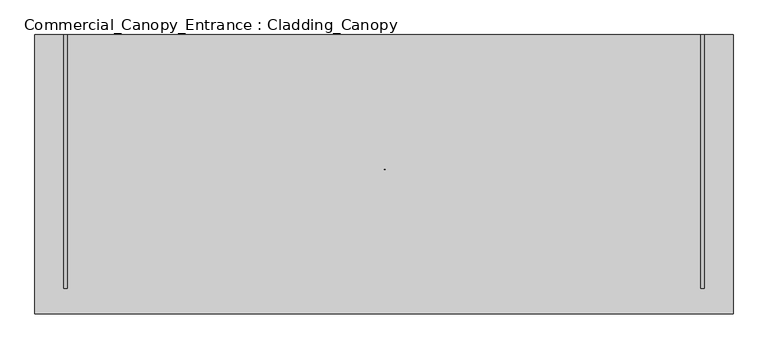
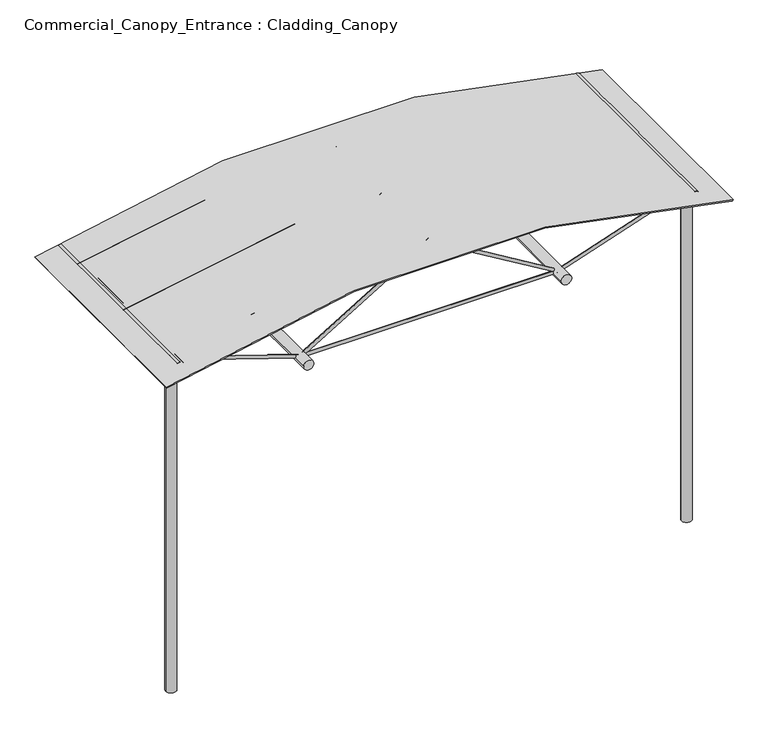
"""IFC4 building model written with IfcOpenShell, lengths in millimetres: proxy geometry, Commercial_Canopy_Entrance : Cladding_Canopy."""

from ifc_helpers import new_model, si_unit, point, frame, frame_2d, origin, place, context, project, spatial, polyline, circle_curve, ellipse_curve, trimmed, segment, composite_curve, outline, extrude, source, transform, mapped, element, save
from ifc_brep_helpers import plane_surface, cylinder_surface, revolved_surface, advanced_brep


def commercial_canopy_entrance_cladding_canopy_659b45ad(model_context):
    return source(origin(), model_context, "Body", "SolidModel", [
        extrude(outline(composite_curve([segment(trimmed(circle_curve(frame_2d((-1850.0, 2983.3333333)), 15.0), [point((-1850.0, 2968.3333333))], [point((-1850.0, 2998.3333333))], False, "CARTESIAN"), True, "CONTINUOUS"), segment(trimmed(circle_curve(frame_2d((-1850.0, 2983.3333333)), 15.0), [point((-1850.0, 2998.3333333))], [point((-1850.0, 2968.3333333))], False, "CARTESIAN"), True, "CONTINUOUS")], self_intersect=False)), frame((-1459.7114967, 0.0, 0.0), z_axis=(1.0, 0.0, 0.0), x_axis=(0.0, 1.0, 0.0)), (0.0, 0.0, 1.0), 2500.0),
        advanced_brep(
        [(-2714.4549132, -1850.0, 3385.7697505), (-2704.9680802, -1850.0, 3414.2302495), (-1457.8938734, -1850.0, 2966.9160706), (-1461.5291199, -1850.0, 2999.7505961), (-209.7114967, -1850.0, 3718.9885032), (-209.7114967, -1850.0, 3754.0133886), (1038.4708801, -1850.0, 2966.9160706), (1042.1061266, -1850.0, 2999.7505961), (2295.0319198, -1850.0, 3385.7697505), (2285.5450868, -1850.0, 3414.2302495)],
        [
            (0, 1, circle_curve(frame((-2709.7114967, -1850.0, 3400.0), z_axis=(-0.9486832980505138, 0.0, 0.31622776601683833), x_axis=(0.31622776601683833, 0.0, 0.9486832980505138)), 15.0)),
            (1, 0, circle_curve(frame((-2709.7114967, -1850.0, 3400.0), z_axis=(-0.9486832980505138, 0.0, 0.31622776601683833), x_axis=(0.31622776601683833, 0.0, 0.9486832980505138)), 15.0)),
            (0, 2),
            (2, 3, ellipse_curve(frame((-1459.7114967, -1850.0, 2983.3333333), z_axis=(-0.9939269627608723, 0.0, -0.11004177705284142), x_axis=(-0.11004177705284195, 0.0, 0.9939269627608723)), 16.5175746, 15.0)),
            (3, 1),
            (3, 2, ellipse_curve(frame((-1459.7114967, -1850.0, 2983.3333333), z_axis=(-0.9939269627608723, 0.0, -0.11004177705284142), x_axis=(-0.11004177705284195, 0.0, 0.9939269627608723)), 16.5175746, 15.0)),
            (2, 4),
            (4, 5, ellipse_curve(frame((-209.7114967, -1850.0, 3736.5009459), z_axis=(-1.0, 0.0, 0.0), x_axis=(0.0, 0.0, -1.0)), 17.5124427, 15.0)),
            (5, 3),
            (5, 4, ellipse_curve(frame((-209.7114967, -1850.0, 3736.5009459), z_axis=(-1.0, 0.0, 0.0), x_axis=(0.0, 0.0, -1.0)), 17.5124427, 15.0)),
            (4, 6),
            (6, 7, ellipse_curve(frame((1040.2885033, -1850.0, 2983.3333333), z_axis=(-0.9939269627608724, 0.0, 0.11004177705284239), x_axis=(0.1100417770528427, 0.0, 0.9939269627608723)), 16.5175746, 15.0)),
            (7, 5),
            (7, 6, ellipse_curve(frame((1040.2885033, -1850.0, 2983.3333333), z_axis=(-0.9939269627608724, 0.0, 0.11004177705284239), x_axis=(0.1100417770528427, 0.0, 0.9939269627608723)), 16.5175746, 15.0)),
            (8, 9, circle_curve(frame((2290.2885033, -1850.0, 3400.0), z_axis=(0.948683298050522, 0.0, 0.3162277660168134), x_axis=(-0.3162277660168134, 0.0, 0.948683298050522)), 15.0)),
            (9, 8, circle_curve(frame((2290.2885033, -1850.0, 3400.0), z_axis=(0.948683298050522, 0.0, 0.3162277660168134), x_axis=(-0.3162277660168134, 0.0, 0.948683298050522)), 15.0)),
            (6, 8),
            (9, 7),
        ],
        [
            plane_surface(frame((-2709.7114967, -1850.0, 3400.0), z_axis=(-0.9486832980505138, 0.0, 0.31622776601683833), x_axis=(0.0, -1.0, 0.0))),
            cylinder_surface(frame((-2709.7114967, -1850.0, 3400.0), z_axis=(-0.9486832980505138, 0.0, 0.31622776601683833), x_axis=(0.31622776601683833, 0.0, 0.9486832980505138)), 15.0),
            cylinder_surface(frame((-1459.7114967, -1850.0, 2983.3333333), z_axis=(-0.8565338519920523, 0.0, -0.5160908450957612), x_axis=(-0.5160908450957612, 0.0, 0.8565338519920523)), 15.0),
            cylinder_surface(frame((-209.7114967, -1850.0, 3736.5009459), z_axis=(-0.856533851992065, 0.0, 0.5160908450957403), x_axis=(0.5160908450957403, 0.0, 0.856533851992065)), 15.0),
            plane_surface(frame((2290.2885033, -1850.0, 3400.0), z_axis=(0.948683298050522, 0.0, 0.31622776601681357), x_axis=(0.0, -1.0, 0.0))),
            cylinder_surface(frame((1040.2885033, -1850.0, 2983.3333333), z_axis=(-0.948683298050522, 0.0, -0.3162277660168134), x_axis=(-0.3162277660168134, 0.0, 0.948683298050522)), 15.0),
        ],
        [
            (0, [[1, 2]]),
            (1, [[-1, 3, 4, 5]]),
            (1, [[-2, -5, 6, -3]]),
            (2, [[-4, 7, 8, 9]]),
            (2, [[-6, -9, 10, -7]]),
            (3, [[-8, 11, 12, 13]]),
            (3, [[-10, -13, 14, -11]]),
            (4, [[15, 16]]),
            (5, [[-12, 17, -16, 18]]),
            (5, [[-14, -18, -15, -17]]),
        ],
    ),
        advanced_brep(
        [(2296.8987624, -1850.0, 3424.1102566), (2283.6782442, -1850.0, 3375.8897434), (-2716.3217558, -1850.0, 3424.1102566), (-2703.1012376, -1850.0, 3375.8897434)],
        [
            (0, 1, circle_curve(frame((2290.2885033, -1850.0, 3400.0), z_axis=(0.9644102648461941, 0.0, -0.2644103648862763), x_axis=(-0.2644103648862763, 0.0, -0.9644102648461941)), 25.0)),
            (1, 0, circle_curve(frame((2290.2885033, -1850.0, 3400.0), z_axis=(0.9644102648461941, 0.0, -0.2644103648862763), x_axis=(-0.2644103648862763, 0.0, -0.9644102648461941)), 25.0)),
            (2, 3, circle_curve(frame((-2709.7114967, -1850.0, 3400.0), z_axis=(-0.9644102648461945, 0.0, -0.26441036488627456), x_axis=(0.26441036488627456, 0.0, -0.9644102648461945)), 25.0)),
            (3, 2, circle_curve(frame((-2709.7114967, -1850.0, 3400.0), z_axis=(-0.9644102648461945, 0.0, -0.26441036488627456), x_axis=(0.26441036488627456, 0.0, -0.9644102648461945)), 25.0)),
            (3, 1, circle_curve(frame((-209.7114967, -1850.0, -5718.4990541), z_axis=(0.0, 1.0, 0.0), x_axis=(0.26441036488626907, 0.0, 0.9644102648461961)), 9430.0)),
            (0, 2, circle_curve(frame((-209.7114967, -1850.0, -5718.4990541), z_axis=(0.0, -1.0, 0.0), x_axis=(0.26441036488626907, 0.0, 0.9644102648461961)), 9480.0)),
        ],
        [
            plane_surface(frame((2290.2885033, -1850.0, 3400.0), z_axis=(0.9644102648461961, 0.0, -0.26441036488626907), x_axis=(0.0, -1.0, 0.0))),
            plane_surface(frame((-2709.7114967, -1850.0, 3400.0), z_axis=(-0.9644102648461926, 0.0, -0.2644103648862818), x_axis=(0.0, -1.0, 0.0))),
            revolved_surface(trimmed(ellipse_curve(frame((2290.2885033, -1850.0, 3400.0), z_axis=(0.9644102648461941, 0.0, -0.2644103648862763), x_axis=(-0.2644103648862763, 0.0, -0.9644102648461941)), 25.0, 25.0), [point((2296.8987624, -1850.0, 3424.1102566))], [point((2283.6782442, -1850.0, 3375.8897434))], True, "CARTESIAN"), (-209.7114967, -1850.0, -5718.4990541), (0.0, -1.0, 0.0)),
            revolved_surface(trimmed(ellipse_curve(frame((2290.2885033, -1850.0, 3400.0), z_axis=(0.9644102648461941, 0.0, -0.2644103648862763), x_axis=(-0.2644103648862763, 0.0, -0.9644102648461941)), 25.0, 25.0), [point((2283.6782442, -1850.0, 3375.8897434))], [point((2296.8987624, -1850.0, 3424.1102566))], True, "CARTESIAN"), (-209.7114967, -1850.0, -5718.4990541), (0.0, -1.0, 0.0)),
        ],
        [
            (0, [[1, 2]]),
            (1, [[3, 4]]),
            (2, [[5, -1, 6, -4]]),
            (3, [[-6, -2, -5, -3]]),
        ],
    ),
        extrude(outline(composite_curve([segment(trimmed(circle_curve(frame_2d((-1075.0, 2983.3333333)), 15.0), [point((-1075.0, 2968.3333333))], [point((-1075.0, 2998.3333333))], False, "CARTESIAN"), True, "CONTINUOUS"), segment(trimmed(circle_curve(frame_2d((-1075.0, 2983.3333333)), 15.0), [point((-1075.0, 2998.3333333))], [point((-1075.0, 2968.3333333))], False, "CARTESIAN"), True, "CONTINUOUS")], self_intersect=False)), frame((-1459.7114967, 0.0, 0.0), z_axis=(1.0, 0.0, 0.0), x_axis=(0.0, 1.0, 0.0)), (0.0, 0.0, 1.0), 2500.0),
        advanced_brep(
        [(-2714.4549132, -1075.0, 3385.7697505), (-2704.9680802, -1075.0, 3414.2302495), (-1457.8938734, -1075.0, 2966.9160706), (-1461.5291199, -1075.0, 2999.7505961), (-209.7114967, -1075.0, 3718.9885032), (-209.7114967, -1075.0, 3754.0133886), (1038.4708801, -1075.0, 2966.9160706), (1042.1061266, -1075.0, 2999.7505961), (2295.0319198, -1075.0, 3385.7697505), (2285.5450868, -1075.0, 3414.2302495)],
        [
            (0, 1, circle_curve(frame((-2709.7114967, -1075.0, 3400.0), z_axis=(-0.9486832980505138, 0.0, 0.31622776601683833), x_axis=(0.31622776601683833, 0.0, 0.9486832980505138)), 15.0)),
            (1, 0, circle_curve(frame((-2709.7114967, -1075.0, 3400.0), z_axis=(-0.9486832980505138, 0.0, 0.31622776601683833), x_axis=(0.31622776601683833, 0.0, 0.9486832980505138)), 15.0)),
            (0, 2),
            (2, 3, ellipse_curve(frame((-1459.7114967, -1075.0, 2983.3333333), z_axis=(-0.9939269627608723, 0.0, -0.11004177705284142), x_axis=(-0.11004177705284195, 0.0, 0.9939269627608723)), 16.5175746, 15.0)),
            (3, 1),
            (3, 2, ellipse_curve(frame((-1459.7114967, -1075.0, 2983.3333333), z_axis=(-0.9939269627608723, 0.0, -0.11004177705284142), x_axis=(-0.11004177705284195, 0.0, 0.9939269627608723)), 16.5175746, 15.0)),
            (2, 4),
            (4, 5, ellipse_curve(frame((-209.7114967, -1075.0, 3736.5009459), z_axis=(-1.0, 0.0, 0.0), x_axis=(0.0, 0.0, -1.0)), 17.5124427, 15.0)),
            (5, 3),
            (5, 4, ellipse_curve(frame((-209.7114967, -1075.0, 3736.5009459), z_axis=(-1.0, 0.0, 0.0), x_axis=(0.0, 0.0, -1.0)), 17.5124427, 15.0)),
            (4, 6),
            (6, 7, ellipse_curve(frame((1040.2885033, -1075.0, 2983.3333333), z_axis=(-0.9939269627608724, 0.0, 0.11004177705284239), x_axis=(0.1100417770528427, 0.0, 0.9939269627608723)), 16.5175746, 15.0)),
            (7, 5),
            (7, 6, ellipse_curve(frame((1040.2885033, -1075.0, 2983.3333333), z_axis=(-0.9939269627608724, 0.0, 0.11004177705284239), x_axis=(0.1100417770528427, 0.0, 0.9939269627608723)), 16.5175746, 15.0)),
            (8, 9, circle_curve(frame((2290.2885033, -1075.0, 3400.0), z_axis=(0.948683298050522, 0.0, 0.3162277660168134), x_axis=(-0.3162277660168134, 0.0, 0.948683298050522)), 15.0)),
            (9, 8, circle_curve(frame((2290.2885033, -1075.0, 3400.0), z_axis=(0.948683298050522, 0.0, 0.3162277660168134), x_axis=(-0.3162277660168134, 0.0, 0.948683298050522)), 15.0)),
            (6, 8),
            (9, 7),
        ],
        [
            plane_surface(frame((-2709.7114967, -1075.0, 3400.0), z_axis=(-0.9486832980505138, 0.0, 0.31622776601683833), x_axis=(0.0, -1.0, 0.0))),
            cylinder_surface(frame((-2709.7114967, -1075.0, 3400.0), z_axis=(-0.9486832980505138, 0.0, 0.31622776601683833), x_axis=(0.31622776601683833, 0.0, 0.9486832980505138)), 15.0),
            cylinder_surface(frame((-1459.7114967, -1075.0, 2983.3333333), z_axis=(-0.8565338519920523, 0.0, -0.5160908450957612), x_axis=(-0.5160908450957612, 0.0, 0.8565338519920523)), 15.0),
            cylinder_surface(frame((-209.7114967, -1075.0, 3736.5009459), z_axis=(-0.856533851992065, 0.0, 0.5160908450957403), x_axis=(0.5160908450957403, 0.0, 0.856533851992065)), 15.0),
            plane_surface(frame((2290.2885033, -1075.0, 3400.0), z_axis=(0.948683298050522, 0.0, 0.31622776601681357), x_axis=(0.0, -1.0, 0.0))),
            cylinder_surface(frame((1040.2885033, -1075.0, 2983.3333333), z_axis=(-0.948683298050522, 0.0, -0.3162277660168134), x_axis=(-0.3162277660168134, 0.0, 0.948683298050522)), 15.0),
        ],
        [
            (0, [[1, 2]]),
            (1, [[-1, 3, 4, 5]]),
            (1, [[-2, -5, 6, -3]]),
            (2, [[-4, 7, 8, 9]]),
            (2, [[-6, -9, 10, -7]]),
            (3, [[-8, 11, 12, 13]]),
            (3, [[-10, -13, 14, -11]]),
            (4, [[15, 16]]),
            (5, [[-12, 17, -16, 18]]),
            (5, [[-14, -18, -15, -17]]),
        ],
    ),
        advanced_brep(
        [(2296.8987624, -1075.0, 3424.1102566), (2283.6782442, -1075.0, 3375.8897434), (-2716.3217558, -1075.0, 3424.1102566), (-2703.1012376, -1075.0, 3375.8897434)],
        [
            (0, 1, circle_curve(frame((2290.2885033, -1075.0, 3400.0), z_axis=(0.9644102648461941, 0.0, -0.2644103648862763), x_axis=(-0.2644103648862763, 0.0, -0.9644102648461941)), 25.0)),
            (1, 0, circle_curve(frame((2290.2885033, -1075.0, 3400.0), z_axis=(0.9644102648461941, 0.0, -0.2644103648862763), x_axis=(-0.2644103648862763, 0.0, -0.9644102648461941)), 25.0)),
            (2, 3, circle_curve(frame((-2709.7114967, -1075.0, 3400.0), z_axis=(-0.9644102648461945, 0.0, -0.26441036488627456), x_axis=(0.26441036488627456, 0.0, -0.9644102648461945)), 25.0)),
            (3, 2, circle_curve(frame((-2709.7114967, -1075.0, 3400.0), z_axis=(-0.9644102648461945, 0.0, -0.26441036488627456), x_axis=(0.26441036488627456, 0.0, -0.9644102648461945)), 25.0)),
            (3, 1, circle_curve(frame((-209.7114967, -1075.0, -5718.4990541), z_axis=(0.0, 1.0, 0.0), x_axis=(0.26441036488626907, 0.0, 0.9644102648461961)), 9430.0)),
            (0, 2, circle_curve(frame((-209.7114967, -1075.0, -5718.4990541), z_axis=(0.0, -1.0, 0.0), x_axis=(0.26441036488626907, 0.0, 0.9644102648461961)), 9480.0)),
        ],
        [
            plane_surface(frame((2290.2885033, -1075.0, 3400.0), z_axis=(0.9644102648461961, 0.0, -0.26441036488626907), x_axis=(0.0, -1.0, 0.0))),
            plane_surface(frame((-2709.7114967, -1075.0, 3400.0), z_axis=(-0.9644102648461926, 0.0, -0.2644103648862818), x_axis=(0.0, -1.0, 0.0))),
            revolved_surface(trimmed(ellipse_curve(frame((2290.2885033, -1075.0, 3400.0), z_axis=(0.9644102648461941, 0.0, -0.2644103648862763), x_axis=(-0.2644103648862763, 0.0, -0.9644102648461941)), 25.0, 25.0), [point((2296.8987624, -1075.0, 3424.1102566))], [point((2283.6782442, -1075.0, 3375.8897434))], True, "CARTESIAN"), (-209.7114967, -1075.0, -5718.4990541), (0.0, -1.0, 0.0)),
            revolved_surface(trimmed(ellipse_curve(frame((2290.2885033, -1075.0, 3400.0), z_axis=(0.9644102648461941, 0.0, -0.2644103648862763), x_axis=(-0.2644103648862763, 0.0, -0.9644102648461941)), 25.0, 25.0), [point((2283.6782442, -1075.0, 3375.8897434))], [point((2296.8987624, -1075.0, 3424.1102566))], True, "CARTESIAN"), (-209.7114967, -1075.0, -5718.4990541), (0.0, -1.0, 0.0)),
        ],
        [
            (0, [[1, 2]]),
            (1, [[3, 4]]),
            (2, [[5, -1, 6, -4]]),
            (3, [[-6, -2, -5, -3]]),
        ],
    ),
        extrude(outline(composite_curve([segment(trimmed(circle_curve(frame_2d((-300.0, 2983.3333333)), 15.0), [point((-300.0, 2968.3333333))], [point((-300.0, 2998.3333333))], False, "CARTESIAN"), True, "CONTINUOUS"), segment(trimmed(circle_curve(frame_2d((-300.0, 2983.3333333)), 15.0), [point((-300.0, 2998.3333333))], [point((-300.0, 2968.3333333))], False, "CARTESIAN"), True, "CONTINUOUS")], self_intersect=False)), frame((-1459.7114967, 0.0, 0.0), z_axis=(1.0, 0.0, 0.0), x_axis=(0.0, 1.0, 0.0)), (0.0, 0.0, 1.0), 2500.0),
        advanced_brep(
        [(-2714.4549132, -300.0, 3385.7697505), (-2704.9680802, -300.0, 3414.2302495), (-1457.8938734, -300.0, 2966.9160706), (-1461.5291199, -300.0, 2999.7505961), (-209.7114967, -300.0, 3718.9885032), (-209.7114967, -300.0, 3754.0133886), (1038.4708801, -300.0, 2966.9160706), (1042.1061266, -300.0, 2999.7505961), (2295.0319198, -300.0, 3385.7697505), (2285.5450868, -300.0, 3414.2302495)],
        [
            (0, 1, circle_curve(frame((-2709.7114967, -300.0, 3400.0), z_axis=(-0.9486832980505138, 0.0, 0.31622776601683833), x_axis=(0.31622776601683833, 0.0, 0.9486832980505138)), 15.0)),
            (1, 0, circle_curve(frame((-2709.7114967, -300.0, 3400.0), z_axis=(-0.9486832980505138, 0.0, 0.31622776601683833), x_axis=(0.31622776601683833, 0.0, 0.9486832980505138)), 15.0)),
            (0, 2),
            (2, 3, ellipse_curve(frame((-1459.7114967, -300.0, 2983.3333333), z_axis=(-0.9939269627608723, 0.0, -0.11004177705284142), x_axis=(-0.11004177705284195, 0.0, 0.9939269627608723)), 16.5175746, 15.0)),
            (3, 1),
            (3, 2, ellipse_curve(frame((-1459.7114967, -300.0, 2983.3333333), z_axis=(-0.9939269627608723, 0.0, -0.11004177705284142), x_axis=(-0.11004177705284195, 0.0, 0.9939269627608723)), 16.5175746, 15.0)),
            (2, 4),
            (4, 5, ellipse_curve(frame((-209.7114967, -300.0, 3736.5009459), z_axis=(-1.0, 0.0, 0.0), x_axis=(0.0, 0.0, -1.0)), 17.5124427, 15.0)),
            (5, 3),
            (5, 4, ellipse_curve(frame((-209.7114967, -300.0, 3736.5009459), z_axis=(-1.0, 0.0, 0.0), x_axis=(0.0, 0.0, -1.0)), 17.5124427, 15.0)),
            (4, 6),
            (6, 7, ellipse_curve(frame((1040.2885033, -300.0, 2983.3333333), z_axis=(-0.9939269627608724, 0.0, 0.11004177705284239), x_axis=(0.1100417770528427, 0.0, 0.9939269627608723)), 16.5175746, 15.0)),
            (7, 5),
            (7, 6, ellipse_curve(frame((1040.2885033, -300.0, 2983.3333333), z_axis=(-0.9939269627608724, 0.0, 0.11004177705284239), x_axis=(0.1100417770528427, 0.0, 0.9939269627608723)), 16.5175746, 15.0)),
            (8, 9, circle_curve(frame((2290.2885033, -300.0, 3400.0), z_axis=(0.948683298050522, 0.0, 0.3162277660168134), x_axis=(-0.3162277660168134, 0.0, 0.948683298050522)), 15.0)),
            (9, 8, circle_curve(frame((2290.2885033, -300.0, 3400.0), z_axis=(0.948683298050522, 0.0, 0.3162277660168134), x_axis=(-0.3162277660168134, 0.0, 0.948683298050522)), 15.0)),
            (6, 8),
            (9, 7),
        ],
        [
            plane_surface(frame((-2709.7114967, -300.0, 3400.0), z_axis=(-0.9486832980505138, 0.0, 0.31622776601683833), x_axis=(0.0, -1.0, 0.0))),
            cylinder_surface(frame((-2709.7114967, -300.0, 3400.0), z_axis=(-0.9486832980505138, 0.0, 0.31622776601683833), x_axis=(0.31622776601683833, 0.0, 0.9486832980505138)), 15.0),
            cylinder_surface(frame((-1459.7114967, -300.0, 2983.3333333), z_axis=(-0.8565338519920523, 0.0, -0.5160908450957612), x_axis=(-0.5160908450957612, 0.0, 0.8565338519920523)), 15.0),
            cylinder_surface(frame((-209.7114967, -300.0, 3736.5009459), z_axis=(-0.856533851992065, 0.0, 0.5160908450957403), x_axis=(0.5160908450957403, 0.0, 0.856533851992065)), 15.0),
            plane_surface(frame((2290.2885033, -300.0, 3400.0), z_axis=(0.948683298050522, 0.0, 0.31622776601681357), x_axis=(0.0, -1.0, 0.0))),
            cylinder_surface(frame((1040.2885033, -300.0, 2983.3333333), z_axis=(-0.948683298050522, 0.0, -0.3162277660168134), x_axis=(-0.3162277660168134, 0.0, 0.948683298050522)), 15.0),
        ],
        [
            (0, [[1, 2]]),
            (1, [[-1, 3, 4, 5]]),
            (1, [[-2, -5, 6, -3]]),
            (2, [[-4, 7, 8, 9]]),
            (2, [[-6, -9, 10, -7]]),
            (3, [[-8, 11, 12, 13]]),
            (3, [[-10, -13, 14, -11]]),
            (4, [[15, 16]]),
            (5, [[-12, 17, -16, 18]]),
            (5, [[-14, -18, -15, -17]]),
        ],
    ),
        advanced_brep(
        [(2296.8987624, -300.0, 3424.1102566), (2283.6782442, -300.0, 3375.8897434), (-2716.3217558, -300.0, 3424.1102566), (-2703.1012376, -300.0, 3375.8897434)],
        [
            (0, 1, circle_curve(frame((2290.2885033, -300.0, 3400.0), z_axis=(0.9644102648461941, 0.0, -0.2644103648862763), x_axis=(-0.2644103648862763, 0.0, -0.9644102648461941)), 25.0)),
            (1, 0, circle_curve(frame((2290.2885033, -300.0, 3400.0), z_axis=(0.9644102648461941, 0.0, -0.2644103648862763), x_axis=(-0.2644103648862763, 0.0, -0.9644102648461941)), 25.0)),
            (2, 3, circle_curve(frame((-2709.7114967, -300.0, 3400.0), z_axis=(-0.9644102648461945, 0.0, -0.26441036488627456), x_axis=(0.26441036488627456, 0.0, -0.9644102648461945)), 25.0)),
            (3, 2, circle_curve(frame((-2709.7114967, -300.0, 3400.0), z_axis=(-0.9644102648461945, 0.0, -0.26441036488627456), x_axis=(0.26441036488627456, 0.0, -0.9644102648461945)), 25.0)),
            (3, 1, circle_curve(frame((-209.7114967, -300.0, -5718.4990541), z_axis=(0.0, 1.0, 0.0), x_axis=(0.26441036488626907, 0.0, 0.9644102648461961)), 9430.0)),
            (0, 2, circle_curve(frame((-209.7114967, -300.0, -5718.4990541), z_axis=(0.0, -1.0, 0.0), x_axis=(0.26441036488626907, 0.0, 0.9644102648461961)), 9480.0)),
        ],
        [
            plane_surface(frame((2290.2885033, -300.0, 3400.0), z_axis=(0.9644102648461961, 0.0, -0.26441036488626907), x_axis=(0.0, -1.0, 0.0))),
            plane_surface(frame((-2709.7114967, -300.0, 3400.0), z_axis=(-0.9644102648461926, 0.0, -0.2644103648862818), x_axis=(0.0, -1.0, 0.0))),
            revolved_surface(trimmed(ellipse_curve(frame((2290.2885033, -300.0, 3400.0), z_axis=(0.9644102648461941, 0.0, -0.2644103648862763), x_axis=(-0.2644103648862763, 0.0, -0.9644102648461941)), 25.0, 25.0), [point((2296.8987624, -300.0, 3424.1102566))], [point((2283.6782442, -300.0, 3375.8897434))], True, "CARTESIAN"), (-209.7114967, -300.0, -5718.4990541), (0.0, -1.0, 0.0)),
            revolved_surface(trimmed(ellipse_curve(frame((2290.2885033, -300.0, 3400.0), z_axis=(0.9644102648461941, 0.0, -0.2644103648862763), x_axis=(-0.2644103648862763, 0.0, -0.9644102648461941)), 25.0, 25.0), [point((2283.6782442, -300.0, 3375.8897434))], [point((2296.8987624, -300.0, 3424.1102566))], True, "CARTESIAN"), (-209.7114967, -300.0, -5718.4990541), (0.0, -1.0, 0.0)),
        ],
        [
            (0, [[1, 2]]),
            (1, [[3, 4]]),
            (2, [[5, -1, 6, -4]]),
            (3, [[-6, -2, -5, -3]]),
        ],
    ),
        advanced_brep(
        [(-2759.7114967, -2000.0, 3400.0), (-2659.7114967, -2000.0, 3400.0), (-2759.7114967, 0.0, 3400.0), (-2659.7114967, 0.0, 3400.0), (-2759.7114967, -1850.0, 3400.0), (-2659.7114967, -1850.0, 3400.0), (-2759.7114967, -1850.0, 0.0), (-2659.7114967, -1850.0, 0.0)],
        [
            (0, 1, circle_curve(frame((-2709.7114967, -2000.0, 3400.0), z_axis=(0.0, -1.0, 0.0), x_axis=(1.0, 0.0, 0.0)), 50.0)),
            (1, 0, circle_curve(frame((-2709.7114967, -2000.0, 3400.0), z_axis=(0.0, -1.0, 0.0), x_axis=(1.0, 0.0, 0.0)), 50.0)),
            (2, 3, circle_curve(frame((-2709.7114967, 0.0, 3400.0), z_axis=(0.0, 1.0, 0.0), x_axis=(1.0, 0.0, 0.0)), 50.0)),
            (3, 2, circle_curve(frame((-2709.7114967, 0.0, 3400.0), z_axis=(0.0, 1.0, 0.0), x_axis=(1.0, 0.0, 0.0)), 50.0)),
            (0, 4),
            (4, 5, ellipse_curve(frame((-2709.7114967, -1850.0, 3400.0), z_axis=(0.0, -0.7071067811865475, 0.7071067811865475), x_axis=(0.0, -0.7071067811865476, -0.7071067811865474)), 70.7106781, 50.0)),
            (5, 1),
            (3, 5),
            (5, 4, ellipse_curve(frame((-2709.7114967, -1850.0, 3400.0), z_axis=(0.0, 0.7071067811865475, 0.7071067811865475), x_axis=(0.0, -0.7071067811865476, 0.7071067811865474)), 70.7106781, 50.0)),
            (4, 2),
            (6, 7, circle_curve(frame((-2709.7114967, -1850.0, 0.0), z_axis=(0.0, 0.0, -1.0), x_axis=(1.0, 0.0, 0.0)), 50.0)),
            (7, 6, circle_curve(frame((-2709.7114967, -1850.0, 0.0), z_axis=(0.0, 0.0, -1.0), x_axis=(1.0, 0.0, 0.0)), 50.0)),
            (7, 5),
            (4, 6),
        ],
        [
            plane_surface(frame((-2659.7114967, -2000.0, 3400.0), z_axis=(0.0, -1.0, 0.0), x_axis=(0.0, 0.0, 1.0))),
            plane_surface(frame((-2659.7114967, 0.0, 3400.0), z_axis=(0.0, 1.0, 0.0), x_axis=(0.0, 0.0, -1.0))),
            cylinder_surface(frame((-2709.7114967, 0.0, 3400.0), z_axis=(0.0, -1.0, 0.0), x_axis=(1.0, 0.0, 0.0)), 50.0),
            plane_surface(frame((-2659.7114967, -1850.0, 0.0), z_axis=(0.0, 0.0, -1.0), x_axis=(0.0, -1.0, 0.0))),
            cylinder_surface(frame((-2709.7114967, -1850.0, 0.0), z_axis=(0.0, 0.0, 1.0), x_axis=(1.0, 0.0, 0.0)), 50.0),
        ],
        [
            (0, [[1, 2]]),
            (1, [[3, 4]]),
            (2, [[-1, 5, 6, 7]]),
            (2, [[-4, 8, 9, 10]]),
            (2, [[-2, -7, -8, -3, -10, -5]]),
            (3, [[11, 12]]),
            (4, [[-12, 13, -6, 14]]),
            (4, [[-11, -14, -9, -13]]),
        ],
    ),
        advanced_brep(
        [(2240.2885033, -2000.0, 3400.0), (2340.2885033, -2000.0, 3400.0), (2240.2885033, 0.0, 3400.0), (2340.2885033, 0.0, 3400.0), (2240.2885033, -1850.0, 3400.0), (2340.2885033, -1850.0, 3400.0), (2240.2885033, -1850.0, 0.0), (2340.2885033, -1850.0, 0.0)],
        [
            (0, 1, circle_curve(frame((2290.2885033, -2000.0, 3400.0), z_axis=(0.0, -1.0, 0.0), x_axis=(1.0, 0.0, 0.0)), 50.0)),
            (1, 0, circle_curve(frame((2290.2885033, -2000.0, 3400.0), z_axis=(0.0, -1.0, 0.0), x_axis=(1.0, 0.0, 0.0)), 50.0)),
            (2, 3, circle_curve(frame((2290.2885033, 0.0, 3400.0), z_axis=(0.0, 1.0, 0.0), x_axis=(1.0, 0.0, 0.0)), 50.0)),
            (3, 2, circle_curve(frame((2290.2885033, 0.0, 3400.0), z_axis=(0.0, 1.0, 0.0), x_axis=(1.0, 0.0, 0.0)), 50.0)),
            (0, 4),
            (4, 5, ellipse_curve(frame((2290.2885033, -1850.0, 3400.0), z_axis=(0.0, -0.7071067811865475, 0.7071067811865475), x_axis=(0.0, -0.7071067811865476, -0.7071067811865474)), 70.7106781, 50.0)),
            (5, 1),
            (3, 5),
            (5, 4, ellipse_curve(frame((2290.2885033, -1850.0, 3400.0), z_axis=(0.0, 0.7071067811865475, 0.7071067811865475), x_axis=(0.0, -0.7071067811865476, 0.7071067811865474)), 70.7106781, 50.0)),
            (4, 2),
            (6, 7, circle_curve(frame((2290.2885033, -1850.0, 0.0), z_axis=(0.0, 0.0, -1.0), x_axis=(1.0, 0.0, 0.0)), 50.0)),
            (7, 6, circle_curve(frame((2290.2885033, -1850.0, 0.0), z_axis=(0.0, 0.0, -1.0), x_axis=(1.0, 0.0, 0.0)), 50.0)),
            (7, 5),
            (4, 6),
        ],
        [
            plane_surface(frame((-2659.7114967, -2000.0, 3400.0), z_axis=(0.0, -1.0, 0.0), x_axis=(0.0, 0.0, 1.0))),
            plane_surface(frame((-2659.7114967, 0.0, 3400.0), z_axis=(0.0, 1.0, 0.0), x_axis=(0.0, 0.0, -1.0))),
            cylinder_surface(frame((2290.2885033, 0.0, 3400.0), z_axis=(0.0, -1.0, 0.0), x_axis=(1.0, 0.0, 0.0)), 50.0),
            plane_surface(frame((-2659.7114967, -1850.0, 0.0), z_axis=(0.0, 0.0, -1.0), x_axis=(0.0, -1.0, 0.0))),
            cylinder_surface(frame((2290.2885033, -1850.0, 0.0), z_axis=(0.0, 0.0, 1.0), x_axis=(1.0, 0.0, 0.0)), 50.0),
        ],
        [
            (0, [[1, 2]]),
            (1, [[3, 4]]),
            (2, [[-1, 5, 6, 7]]),
            (2, [[-4, 8, 9, 10]]),
            (2, [[-2, -7, -8, -3, -10, -5]]),
            (3, [[11, 12]]),
            (4, [[-12, 13, -6, 14]]),
            (4, [[-11, -14, -9, -13]]),
        ],
    ),
        advanced_brep(
        [(-1509.7114967, -2000.0, 2983.3333333), (-1409.7114967, -2000.0, 2983.3333333), (-1509.7114967, 0.0, 2983.3333333), (-1409.7114967, 0.0, 2983.3333333)],
        [
            (0, 1, circle_curve(frame((-1459.7114967, -2000.0, 2983.3333333), z_axis=(0.0, -1.0, 0.0), x_axis=(1.0, 0.0, 0.0)), 50.0)),
            (1, 0, circle_curve(frame((-1459.7114967, -2000.0, 2983.3333333), z_axis=(0.0, -1.0, 0.0), x_axis=(1.0, 0.0, 0.0)), 50.0)),
            (2, 3, circle_curve(frame((-1459.7114967, 0.0, 2983.3333333), z_axis=(0.0, 1.0, 0.0), x_axis=(1.0, 0.0, 0.0)), 50.0)),
            (3, 2, circle_curve(frame((-1459.7114967, 0.0, 2983.3333333), z_axis=(0.0, 1.0, 0.0), x_axis=(1.0, 0.0, 0.0)), 50.0)),
            (0, 2),
            (3, 1),
        ],
        [
            plane_surface(frame((-2659.7114967, -2000.0, 3400.0), z_axis=(0.0, -1.0, 0.0), x_axis=(0.0, 0.0, 1.0))),
            plane_surface(frame((-2659.7114967, 0.0, 3400.0), z_axis=(0.0, 1.0, 0.0), x_axis=(0.0, 0.0, -1.0))),
            cylinder_surface(frame((-1459.7114967, 0.0, 2983.3333333), z_axis=(0.0, -1.0, 0.0), x_axis=(1.0, 0.0, 0.0)), 50.0),
        ],
        [
            (0, [[1, 2]]),
            (1, [[3, 4]]),
            (2, [[-1, 5, -4, 6]]),
            (2, [[-2, -6, -3, -5]]),
        ],
    ),
        advanced_brep(
        [(990.2885033, -2000.0, 2983.3333333), (1090.2885033, -2000.0, 2983.3333333), (990.2885033, 0.0, 2983.3333333), (1090.2885033, 0.0, 2983.3333333)],
        [
            (0, 1, circle_curve(frame((1040.2885033, -2000.0, 2983.3333333), z_axis=(0.0, -1.0, 0.0), x_axis=(1.0, 0.0, 0.0)), 50.0)),
            (1, 0, circle_curve(frame((1040.2885033, -2000.0, 2983.3333333), z_axis=(0.0, -1.0, 0.0), x_axis=(1.0, 0.0, 0.0)), 50.0)),
            (2, 3, circle_curve(frame((1040.2885033, 0.0, 2983.3333333), z_axis=(0.0, 1.0, 0.0), x_axis=(1.0, 0.0, 0.0)), 50.0)),
            (3, 2, circle_curve(frame((1040.2885033, 0.0, 2983.3333333), z_axis=(0.0, 1.0, 0.0), x_axis=(1.0, 0.0, 0.0)), 50.0)),
            (0, 2),
            (3, 1),
        ],
        [
            plane_surface(frame((-2659.7114967, -2000.0, 3400.0), z_axis=(0.0, -1.0, 0.0), x_axis=(0.0, 0.0, 1.0))),
            plane_surface(frame((-2659.7114967, 0.0, 3400.0), z_axis=(0.0, 1.0, 0.0), x_axis=(0.0, 0.0, -1.0))),
            cylinder_surface(frame((1040.2885033, 0.0, 2983.3333333), z_axis=(0.0, -1.0, 0.0), x_axis=(1.0, 0.0, 0.0)), 50.0),
        ],
        [
            (0, [[1, 2]]),
            (1, [[3, 4]]),
            (2, [[-1, 5, -4, 6]]),
            (2, [[-2, -6, -3, -5]]),
        ],
    ),
        extrude(outline(composite_curve([segment(trimmed(circle_curve(frame_2d((-5823.7804072, -209.7114967)), 9625.0), [point((3400.0, 2540.2885033))], [point((3400.0, -2959.7114967))], False, "CARTESIAN"), True, "CONTINUOUS"), segment(polyline([(3400.0, -2959.7114967), (3389.4665287, -2953.0397487)]), True, "CONTINUOUS"), segment(trimmed(circle_curve(frame_2d((-5823.7804072, -209.7114967)), 9613.0), [point((3389.4665287, -2953.0397487))], [point((3389.4665287, 2533.6167554))], True, "CARTESIAN"), True, "CONTINUOUS"), segment(polyline([(3389.4665287, 2533.6167554), (3400.0, 2540.2885033)]), True, "CONTINUOUS")], self_intersect=False)), frame((0.0, -2200.0, 0.0), z_axis=(0.0, 1.0, 0.0), x_axis=(0.0, 0.0, 1.0)), (0.0, 0.0, 1.0), 2200.0),
    ])


if __name__ == "__main__":
    model = new_model("IFC4")
    model_context = context("Model", 3, world=origin())
    ifc_project = project(units=[si_unit("LENGTHUNIT", "METRE", prefix="MILLI")], contexts=[model_context])
    site = spatial("IfcSite", under=ifc_project)
    building = spatial("IfcBuilding", under=site)
    placement = place(None, origin())
    commercial_canopy_entrance_cladding_canopy_shape = commercial_canopy_entrance_cladding_canopy_659b45ad(model_context)
    element("IfcBuildingElementProxy", 1, Name="Commercial_Canopy_Entrance : Cladding_Canopy", ObjectType="Commercial_Canopy_Entrance : Cladding_Canopy", at=placement, inside=building, context=model_context, shape_type="MappedRepresentation", body=[
        mapped(commercial_canopy_entrance_cladding_canopy_shape, transform((0.0, 0.0, 0.0), x_axis=(1.0, 0.0, 0.0), y_axis=(0.0, 1.0, 0.0), z_axis=(0.0, 0.0, 1.0))),
    ])
    save(model, "model.ifc")
